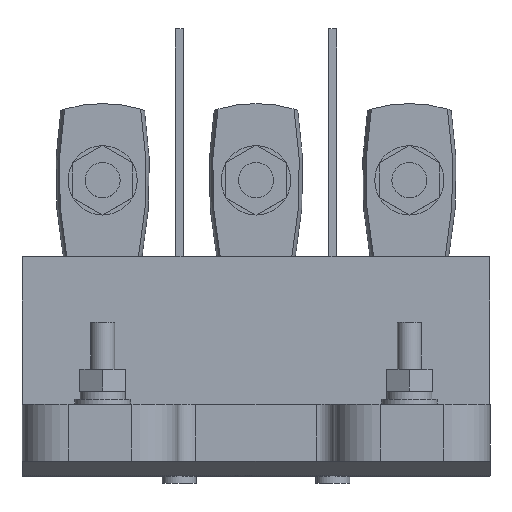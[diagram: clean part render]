
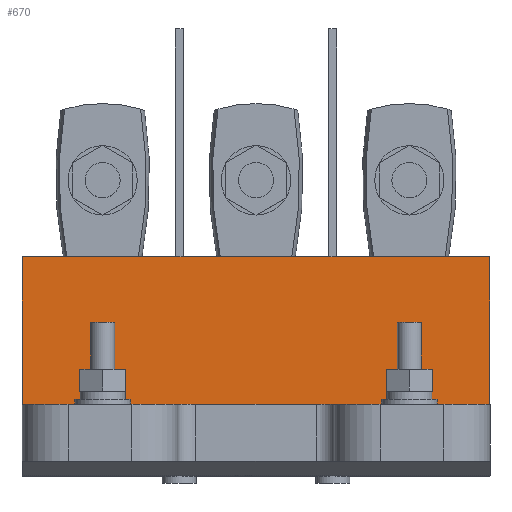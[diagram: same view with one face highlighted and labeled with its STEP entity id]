
A CAD part, top view. The second image highlights one B-rep face of the part: STEP entity #670.
In plain terms, the highlighted planar face has unit normal (0, 0, 1).
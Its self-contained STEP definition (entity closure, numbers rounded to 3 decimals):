
#670=ADVANCED_FACE('',(#1347),#1052,.F.);
#1052=PLANE('',#7123);
#1347=FACE_OUTER_BOUND('',#1715,.T.);
#1715=EDGE_LOOP('',(#2535,#2536,#2537,#2538));
#2535=ORIENTED_EDGE('',*,*,#4877,.F.);
#2536=ORIENTED_EDGE('',*,*,#4926,.T.);
#2537=ORIENTED_EDGE('',*,*,#4927,.F.);
#2538=ORIENTED_EDGE('',*,*,#4893,.F.);
#4189=VERTEX_POINT('',#10353);
#4190=VERTEX_POINT('',#10355);
#4199=VERTEX_POINT('',#10386);
#4230=VERTEX_POINT('',#10451);
#4877=EDGE_CURVE('',#4189,#4190,#5750,.T.);
#4893=EDGE_CURVE('',#4190,#4199,#5760,.T.);
#4926=EDGE_CURVE('',#4189,#4230,#5781,.T.);
#4927=EDGE_CURVE('',#4199,#4230,#5782,.T.);
#5750=LINE('',#10354,#6451);
#5760=LINE('',#10385,#6461);
#5781=LINE('',#10450,#6482);
#5782=LINE('',#10452,#6483);
#6451=VECTOR('',#8022,1.);
#6461=VECTOR('',#8056,1.);
#6482=VECTOR('',#8103,1.);
#6483=VECTOR('',#8104,1.);
#7123=AXIS2_PLACEMENT_3D('',#10453,#8105,#8106);
#8022=DIRECTION('',(0.,1.,0.));
#8056=DIRECTION('',(1.,0.,0.));
#8103=DIRECTION('',(1.,0.,0.));
#8104=DIRECTION('',(0.,-1.,0.));
#8105=DIRECTION('',(0.,0.,-1.));
#8106=DIRECTION('',(0.,1.,0.));
#10353=CARTESIAN_POINT('',(-53.4,16.3,44.8));
#10354=CARTESIAN_POINT('',(-53.4,-8.2,44.8));
#10355=CARTESIAN_POINT('',(-53.4,50.,44.8));
#10385=CARTESIAN_POINT('',(26.,50.,44.8));
#10386=CARTESIAN_POINT('',(53.4,50.,44.8));
#10450=CARTESIAN_POINT('',(26.,16.3,44.8));
#10451=CARTESIAN_POINT('',(53.4,16.3,44.8));
#10452=CARTESIAN_POINT('',(53.4,-8.2,44.8));
#10453=CARTESIAN_POINT('',(26.,16.3,44.8));
